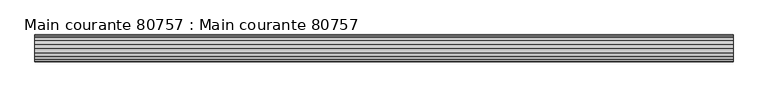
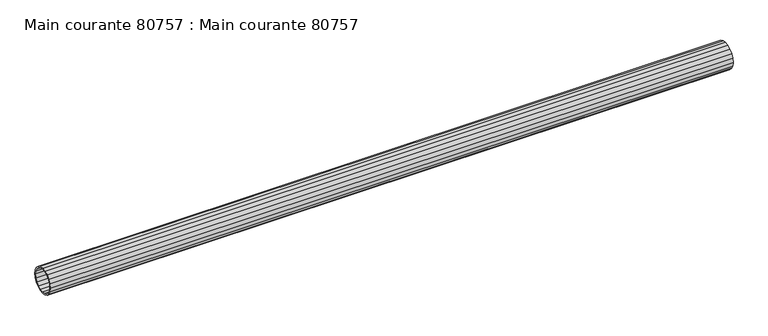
"""IFC4 building model written with IfcOpenShell, lengths in millimetres: beam geometry, Main courante 80757 : Main courante 80757."""

from ifc_helpers import new_model, si_unit, frame, origin, place, context, project, spatial, polyline, outline, extrude, source, transform, mapped, element, save


def main_courante_80757_main_courante_80757_1e9869e7(model_context):
    return source(origin(), model_context, "Body", "SweptSolid", [
        extrude(outline(polyline([(-24956.0, 8765.0), (-24954.8180149, 8772.4627604), (-24951.3877604, 8779.1950138), (-24946.0450138, 8784.5377604), (-24939.3127604, 8787.9680149), (-24931.85, 8789.15), (-24924.3872396, 8787.9680149), (-24917.6549862, 8784.5377604), (-24912.3122396, 8779.1950138), (-24908.8819851, 8772.4627604), (-24907.7, 8765.0), (-24908.8819851, 8757.5372396), (-24912.3122396, 8750.8049862), (-24917.6549862, 8745.4622396), (-24924.3872396, 8742.0319851), (-24931.85, 8740.85), (-24939.3127604, 8742.0319851), (-24946.0450138, 8745.4622396), (-24951.3877604, 8750.8049862), (-24954.8180149, 8757.5372396), (-24956.0, 8765.0)]), holes=[polyline([(-24910.2, 8765.0), (-24911.2596264, 8771.6902179), (-24914.3347821, 8777.7255507), (-24919.1244493, 8782.5152179), (-24925.1597821, 8785.5903736), (-24931.85, 8786.65), (-24938.5402179, 8785.5903736), (-24944.5755507, 8782.5152179), (-24949.3652179, 8777.7255507), (-24952.4403736, 8771.6902179), (-24953.5, 8765.0), (-24952.4403736, 8758.3097821), (-24949.3652179, 8752.2744493), (-24944.5755507, 8747.4847821), (-24938.5402179, 8744.4096264), (-24931.85, 8743.35), (-24925.1597821, 8744.4096264), (-24919.1244493, 8747.4847821), (-24914.3347821, 8752.2744493), (-24911.2596264, 8758.3097821), (-24910.2, 8765.0)])]), frame((10205.9999999, 0.0, 0.0), z_axis=(1.0, 0.0, 0.0), x_axis=(0.0, 1.0, 0.0)), (0.0, 0.0, 1.0), 1249.2815708),
    ])


if __name__ == "__main__":
    model = new_model("IFC4")
    model_context = context("Model", 3, world=origin())
    ifc_project = project(units=[si_unit("LENGTHUNIT", "METRE", prefix="MILLI")], contexts=[model_context])
    site = spatial("IfcSite", under=ifc_project)
    building = spatial("IfcBuilding", under=site)
    placement = place(None, origin())
    main_courante_80757_main_courante_80757_shape = main_courante_80757_main_courante_80757_1e9869e7(model_context)
    element("IfcBeam", 1, ObjectType="Main courante 80757 : Main courante 80757", at=placement, inside=building, context=model_context, shape_type="MappedRepresentation", body=[
        mapped(main_courante_80757_main_courante_80757_shape, transform((0.0, 0.0, 0.0), x_axis=(1.0, 0.0, 0.0), y_axis=(0.0, 1.0, 0.0), z_axis=(0.0, 0.0, 1.0))),
    ])
    save(model, "model.ifc")
